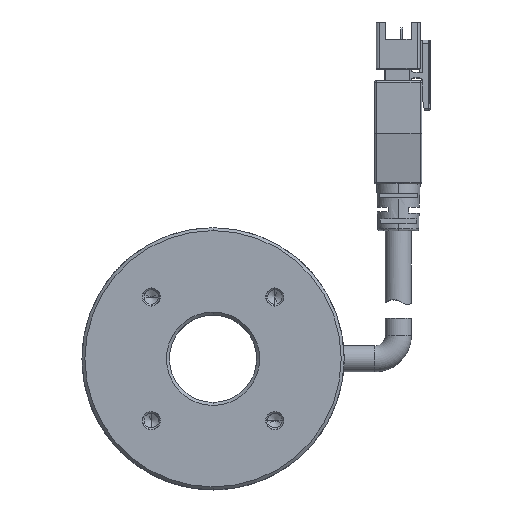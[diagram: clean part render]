
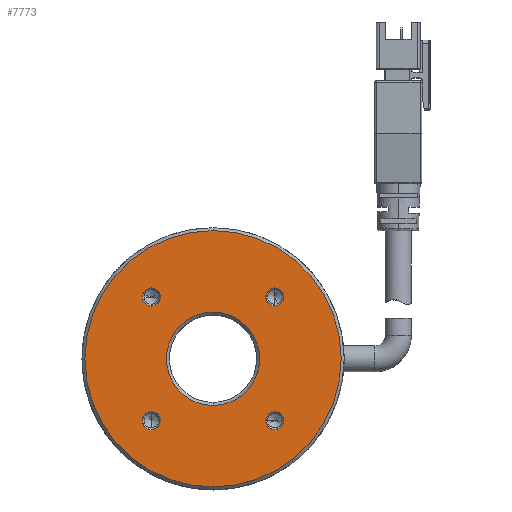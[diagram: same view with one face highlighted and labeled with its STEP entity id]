
A CAD part, top view. The second image highlights one B-rep face of the part: STEP entity #7773.
In plain terms, the highlighted planar face has unit normal (0, 0, 1).
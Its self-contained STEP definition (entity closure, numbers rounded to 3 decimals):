
#3015=CARTESIAN_POINT('',(10.607,10.607,1.5));
#3016=DIRECTION('',(0.,0.,-1.));
#3017=DIRECTION('',(0.,-1.,0.));
#3018=AXIS2_PLACEMENT_3D('',#3015,#3016,#3017);
#3020=CARTESIAN_POINT('',(10.607,10.607,1.5));
#3021=DIRECTION('',(0.,0.,-1.));
#3022=DIRECTION('',(0.,1.,0.));
#3023=AXIS2_PLACEMENT_3D('',#3020,#3021,#3022);
#3025=CARTESIAN_POINT('',(-10.607,-10.607,1.5));
#3026=DIRECTION('',(0.,0.,-1.));
#3027=DIRECTION('',(0.,1.,0.));
#3028=AXIS2_PLACEMENT_3D('',#3025,#3026,#3027);
#3030=CARTESIAN_POINT('',(-10.607,-10.607,1.5));
#3031=DIRECTION('',(0.,0.,-1.));
#3032=DIRECTION('',(0.,-1.,0.));
#3033=AXIS2_PLACEMENT_3D('',#3030,#3031,#3032);
#3035=CARTESIAN_POINT('',(0.,0.,1.5));
#3036=DIRECTION('',(0.,0.,-1.));
#3037=DIRECTION('',(0.,1.,0.));
#3038=AXIS2_PLACEMENT_3D('',#3035,#3036,#3037);
#3040=CARTESIAN_POINT('',(0.,0.,1.5));
#3041=DIRECTION('',(0.,0.,-1.));
#3042=DIRECTION('',(0.,-1.,0.));
#3043=AXIS2_PLACEMENT_3D('',#3040,#3041,#3042);
#3045=CARTESIAN_POINT('',(0.,0.,1.5));
#3046=DIRECTION('',(0.,0.,1.));
#3047=DIRECTION('',(0.,1.,0.));
#3048=AXIS2_PLACEMENT_3D('',#3045,#3046,#3047);
#3050=CARTESIAN_POINT('',(0.,0.,1.5));
#3051=DIRECTION('',(0.,0.,1.));
#3052=DIRECTION('',(0.,-1.,0.));
#3053=AXIS2_PLACEMENT_3D('',#3050,#3051,#3052);
#3059=CARTESIAN_POINT('',(-10.607,10.607,1.5));
#3060=DIRECTION('',(0.,0.,-1.));
#3061=DIRECTION('',(1.,0.,0.));
#3062=AXIS2_PLACEMENT_3D('',#3059,#3060,#3061);
#3073=CARTESIAN_POINT('',(-10.607,10.607,1.5));
#3074=DIRECTION('',(0.,0.,-1.));
#3075=DIRECTION('',(-1.,0.,0.));
#3076=AXIS2_PLACEMENT_3D('',#3073,#3074,#3075);
#3201=CARTESIAN_POINT('',(10.607,-10.607,1.5));
#3202=DIRECTION('',(0.,0.,-1.));
#3203=DIRECTION('',(-1.,0.,0.));
#3204=AXIS2_PLACEMENT_3D('',#3201,#3202,#3203);
#3215=CARTESIAN_POINT('',(10.607,-10.607,1.5));
#3216=DIRECTION('',(0.,0.,-1.));
#3217=DIRECTION('',(1.,0.,0.));
#3218=AXIS2_PLACEMENT_3D('',#3215,#3216,#3217);
#3714=CARTESIAN_POINT('',(0.,-22.,1.5));
#3715=CARTESIAN_POINT('',(0.,22.,1.5));
#3716=VERTEX_POINT('',#3714);
#3717=VERTEX_POINT('',#3715);
#3718=CARTESIAN_POINT('',(0.,-8.,1.5));
#3719=CARTESIAN_POINT('',(0.,8.,1.5));
#3720=VERTEX_POINT('',#3718);
#3721=VERTEX_POINT('',#3719);
#3722=CARTESIAN_POINT('',(-10.607,-12.157,1.5));
#3723=CARTESIAN_POINT('',(-10.607,-9.057,1.5));
#3724=VERTEX_POINT('',#3722);
#3725=VERTEX_POINT('',#3723);
#3726=CARTESIAN_POINT('',(10.607,12.157,1.5));
#3727=CARTESIAN_POINT('',(10.607,9.057,1.5));
#3728=VERTEX_POINT('',#3726);
#3729=VERTEX_POINT('',#3727);
#3801=CARTESIAN_POINT('',(9.057,-10.607,1.5));
#3803=VERTEX_POINT('',#3801);
#3806=CARTESIAN_POINT('',(12.157,-10.607,1.5));
#3808=VERTEX_POINT('',#3806);
#3835=CARTESIAN_POINT('',(-9.057,10.607,1.5));
#3837=VERTEX_POINT('',#3835);
#3840=CARTESIAN_POINT('',(-12.157,10.607,1.5));
#3842=VERTEX_POINT('',#3840);
#7734=CARTESIAN_POINT('',(0.,0.,1.5));
#7735=DIRECTION('',(0.,0.,-1.));
#7736=DIRECTION('',(0.,1.,0.));
#7737=AXIS2_PLACEMENT_3D('',#7734,#7735,#7736);
#7738=PLANE('',#7737);
#7740=ORIENTED_EDGE('',*,*,#7739,.F.);
#7742=ORIENTED_EDGE('',*,*,#7741,.F.);
#7743=EDGE_LOOP('',(#7740,#7742));
#7744=FACE_OUTER_BOUND('',#7743,.F.);
#7746=ORIENTED_EDGE('',*,*,#7745,.F.);
#7748=ORIENTED_EDGE('',*,*,#7747,.F.);
#7749=EDGE_LOOP('',(#7746,#7748));
#7750=FACE_BOUND('',#7749,.F.);
#7752=ORIENTED_EDGE('',*,*,#7751,.F.);
#7754=ORIENTED_EDGE('',*,*,#7753,.F.);
#7755=EDGE_LOOP('',(#7752,#7754));
#7756=FACE_BOUND('',#7755,.F.);
#7758=ORIENTED_EDGE('',*,*,#7757,.F.);
#7760=ORIENTED_EDGE('',*,*,#7759,.F.);
#7761=EDGE_LOOP('',(#7758,#7760));
#7762=FACE_BOUND('',#7761,.F.);
#7763=ORIENTED_EDGE('',*,*,#7727,.F.);
#7764=ORIENTED_EDGE('',*,*,#7713,.F.);
#7765=EDGE_LOOP('',(#7763,#7764));
#7766=FACE_BOUND('',#7765,.F.);
#7768=ORIENTED_EDGE('',*,*,#7767,.F.);
#7770=ORIENTED_EDGE('',*,*,#7769,.F.);
#7771=EDGE_LOOP('',(#7768,#7770));
#7772=FACE_BOUND('',#7771,.F.);
#7773=ADVANCED_FACE('',(#7744,#7750,#7756,#7762,#7766,#7772),#7738,.F.);
#3019=CIRCLE('',#3018,1.55);
#3024=CIRCLE('',#3023,1.55);
#3029=CIRCLE('',#3028,1.55);
#3034=CIRCLE('',#3033,1.55);
#3039=CIRCLE('',#3038,8.);
#3044=CIRCLE('',#3043,8.);
#3049=CIRCLE('',#3048,22.);
#3054=CIRCLE('',#3053,22.);
#3063=CIRCLE('',#3062,1.55);
#3077=CIRCLE('',#3076,1.55);
#3205=CIRCLE('',#3204,1.55);
#3219=CIRCLE('',#3218,1.55);
#7713=EDGE_CURVE('',#3720,#3721,#3044,.T.);
#7727=EDGE_CURVE('',#3721,#3720,#3039,.T.);
#7739=EDGE_CURVE('',#3717,#3716,#3049,.T.);
#7741=EDGE_CURVE('',#3716,#3717,#3054,.T.);
#7745=EDGE_CURVE('',#3729,#3728,#3019,.T.);
#7747=EDGE_CURVE('',#3728,#3729,#3024,.T.);
#7751=EDGE_CURVE('',#3725,#3724,#3029,.T.);
#7753=EDGE_CURVE('',#3724,#3725,#3034,.T.);
#7757=EDGE_CURVE('',#3803,#3808,#3205,.T.);
#7759=EDGE_CURVE('',#3808,#3803,#3219,.T.);
#7767=EDGE_CURVE('',#3837,#3842,#3063,.T.);
#7769=EDGE_CURVE('',#3842,#3837,#3077,.T.);
